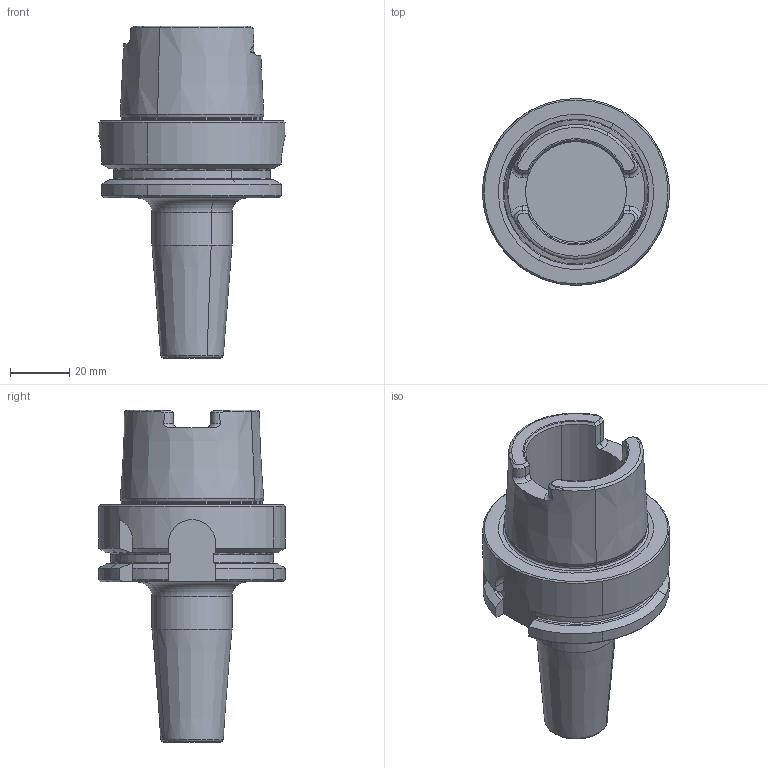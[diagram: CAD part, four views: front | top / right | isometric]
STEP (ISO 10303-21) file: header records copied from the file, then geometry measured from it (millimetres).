
FILE_DESCRIPTION(('CATIA V5 STEP','CAx-IF Rec.Pracs.--- Model Styling and Organization---1.2---2011-12-15'),'2;1');
FILE_NAME('\\nas01\drv1\utils\eitdev\rte\eit\transmagicconvert\db\out\4503899 L.stp','2014-03-27T09:51:37+00:00',('none'),('none'),'CATIA Version 5 Release 21 SP 5 (IN-10)','CATIA V5 STEP AP214','none');
FILE_SCHEMA(('AUTOMOTIVE_DESIGN { 1 0 10303 214 1 1 1 1 }'));
Length unit declared in the file: millimetre
Products named in the file (1): 60794745_0 Holder-Tool HSK A 63 SRKIN 6X 80
Bounding box: 63 x 63 x 112 mm (x, y, z)
Volume: 117717.3 mm3; surface area: 24720.8 mm2
Topology: 1 solids, 1 shells, 136 faces, 349 edges, 218 vertices
Faces by surface type: plane 41, cone 35, cylinder 32, torus 28
Entity records: 4203 total; most frequent: CARTESIAN_POINT 1283, ORIENTED_EDGE 698, DIRECTION 432, EDGE_CURVE 349, AXIS2_PLACEMENT_3D 232, VERTEX_POINT 218, CIRCLE 151, EDGE_LOOP 139
